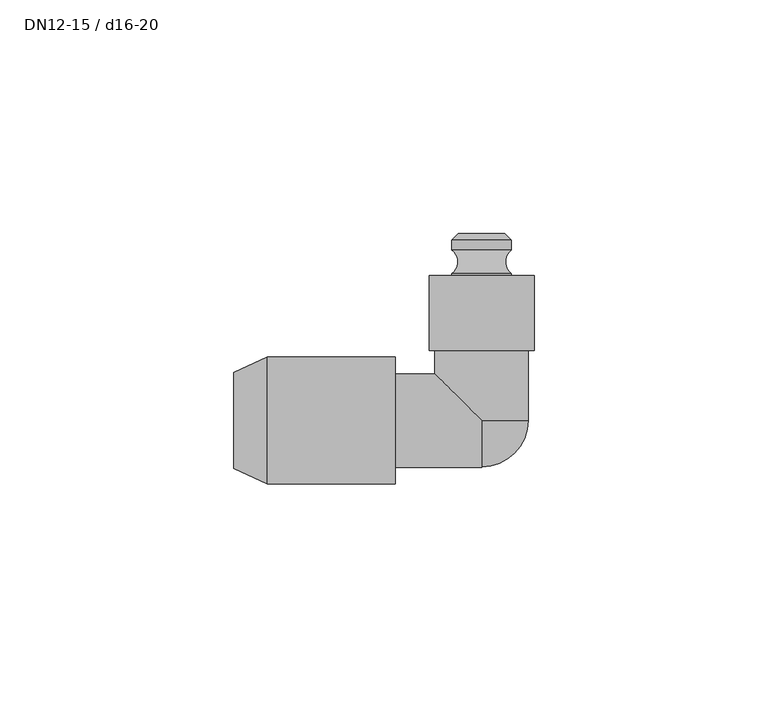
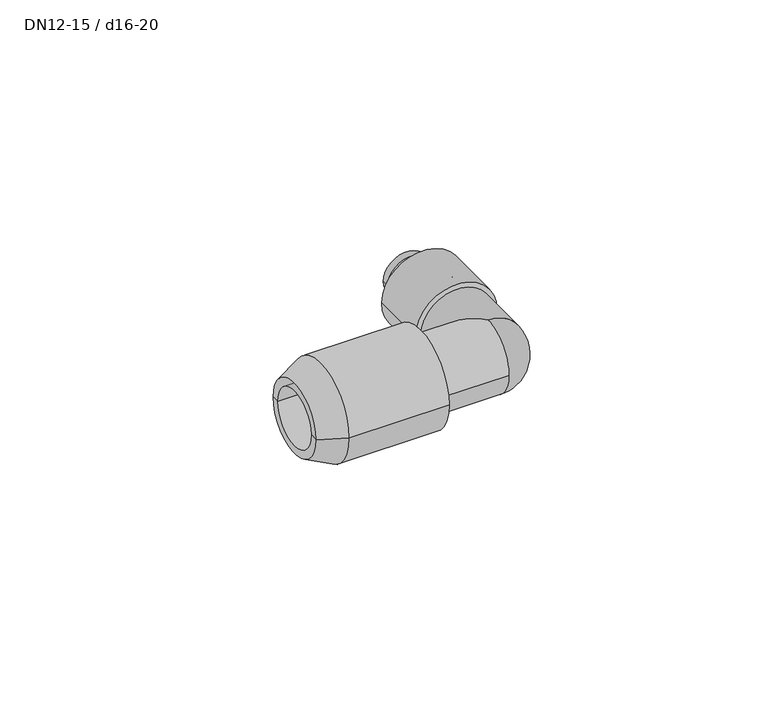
"""IFC4 building model written with IfcOpenShell, lengths in millimetres: pipe fitting geometry, NLRS_50_PIF_UN_PushFit overgangsknie 90° met MasterFix_geb : DN12-15 / d16-20."""

from ifc_helpers import new_model, si_unit, point, frame, origin, place, context, project, spatial, polyline, circle_curve, ellipse_curve, trimmed, source, transform, mapped, element, save
from ifc_brep_helpers import plane_surface, cylinder_surface, revolved_surface, advanced_brep


def dn12_15_d16_20_8953fad6(model_context):
    return source(origin(), model_context, "Body", "AdvancedBrep", [
        advanced_brep(
        [(-11.25, 31.0, 0.0), (11.25, 31.0, 0.0), (11.25, 15.0, 0.0), (-11.25, 15.0, 0.0), (-9.25, 31.0, 0.0), (9.25, 31.0, 0.0), (-9.25, 20.0, 0.0), (9.25, 20.0, 0.0), (0.0, 20.0, 0.0), (0.0, 15.0, 0.0)],
        [
            (0, 1, circle_curve(frame((0.0, 31.0, 0.0), z_axis=(0.0, -1.0, 0.0), x_axis=(1.0000000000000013, 0.0, 0.0)), 11.25)),
            (1, 2),
            (2, 3, circle_curve(frame((0.0, 15.0, 0.0), z_axis=(0.0, 1.0, 0.0), x_axis=(1.0000000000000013, 0.0, 0.0)), 11.25)),
            (3, 0),
            (1, 0, circle_curve(frame((0.0, 31.0, 0.0), z_axis=(0.0, -1.0, 0.0), x_axis=(1.0000000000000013, 0.0, 0.0)), 11.25)),
            (3, 2, circle_curve(frame((0.0, 15.0, 0.0), z_axis=(0.0, 1.0, 0.0), x_axis=(1.0000000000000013, 0.0, 0.0)), 11.25)),
            (4, 5, circle_curve(frame((0.0, 31.0, 0.0), z_axis=(0.0, -1.0, 0.0), x_axis=(1.0000000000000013, 0.0, 0.0)), 9.25)),
            (5, 1),
            (0, 4),
            (5, 4, circle_curve(frame((0.0, 31.0, 0.0), z_axis=(0.0, -1.0, 0.0), x_axis=(1.0000000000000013, 0.0, 0.0)), 9.25)),
            (6, 7, circle_curve(frame((0.0, 20.0, 0.0), z_axis=(0.0, -1.0, 0.0), x_axis=(1.0000000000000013, 0.0, 0.0)), 9.25)),
            (7, 5),
            (4, 6),
            (7, 6, circle_curve(frame((0.0, 20.0, 0.0), z_axis=(0.0, -1.0, 0.0), x_axis=(1.0000000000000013, 0.0, 0.0)), 9.25)),
            (8, 7),
            (6, 8),
            (2, 9),
            (9, 3),
        ],
        [
            cylinder_surface(frame((0.0, 46.0, 0.0), z_axis=(0.0, 1.0000000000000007, 0.0), x_axis=(1.0000000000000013, 0.0, 0.0)), 11.25),
            plane_surface(frame((0.0, 31.0, 0.0), z_axis=(0.0, 1.0, 0.0), x_axis=(1.0, 0.0, 0.0))),
            revolved_surface(polyline([(9.250000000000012, 30.99999999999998, 0.0), (9.250000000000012, 19.999999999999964, 0.0)]), (0.0, 46.0, 0.0), (0.0, 1.0000000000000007, 0.0)),
            plane_surface(frame((0.0, 20.0, 0.0), z_axis=(0.0, 1.0, 0.0), x_axis=(1.0, 0.0, 0.0))),
            plane_surface(frame((0.0, 15.0, 0.0), z_axis=(0.0, -1.0, 0.0), x_axis=(1.0, 0.0, 0.0))),
        ],
        [
            (0, [[1, 2, 3, 4]]),
            (0, [[5, -4, 6, -2]]),
            (1, [[7, 8, -1, 9]]),
            (1, [[10, -9, -5, -8]]),
            (2, [[11, 12, -7, 13]]),
            (2, [[14, -13, -10, -12]]),
            (3, [[15, -11, 16]]),
            (3, [[-16, -14, -15]]),
            (4, [[-3, 17, 18]]),
            (4, [[-6, -18, -17]]),
        ],
    ),
        advanced_brep(
        [(-6.35, 23.6195019, 0.0), (6.35, 23.6195019, 0.0), (6.35, 21.0, 0.0), (-6.35, 21.0, 0.0), (-6.35, 26.3804981, 0.0), (6.35, 26.3804981, 0.0), (-6.35, 31.5, 0.0), (6.35, 31.5, 0.0), (-6.35, 36.5, 0.0), (6.35, 36.5, 0.0), (-6.35, 38.6212479, 0.0), (6.35, 38.6212479, 0.0), (0.0, 40.0, 0.0), (4.9712479, 40.0, 0.0), (-4.9712479, 40.0, 0.0), (-9.0, 20.0, 0.0), (9.0, 20.0, 0.0), (0.0, 20.0, 0.0), (-9.0, 21.0, 0.0), (9.0, 21.0, 0.0)],
        [
            (0, 1, circle_curve(frame((0.0, 23.6195019, 0.0), z_axis=(0.0, -1.0, 0.0), x_axis=(1.0000000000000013, 0.0, 0.0)), 6.35)),
            (1, 2),
            (2, 3, circle_curve(frame((0.0, 21.0, 0.0), z_axis=(0.0, 1.0, 0.0), x_axis=(1.0000000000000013, 0.0, 0.0)), 6.35)),
            (3, 0),
            (1, 0, circle_curve(frame((0.0, 23.6195019, 0.0), z_axis=(0.0, -1.0, 0.0), x_axis=(1.0000000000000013, 0.0, 0.0)), 6.35)),
            (3, 2, circle_curve(frame((0.0, 21.0, 0.0), z_axis=(0.0, 1.0, 0.0), x_axis=(1.0000000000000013, 0.0, 0.0)), 6.35)),
            (4, 5, circle_curve(frame((0.0, 26.3804981, 0.0), z_axis=(0.0, -1.0, 0.0), x_axis=(1.0000000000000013, 0.0, 0.0)), 6.35)),
            (5, 1, circle_curve(frame((5.8811513, 25.0, 0.0), z_axis=(0.0, 0.0, -1.0000000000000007), x_axis=(0.0, -1.0000000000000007, 0.0)), 1.4579417)),
            (0, 4, circle_curve(frame((-5.8811513, 25.0, 0.0), z_axis=(0.0, 0.0, -1.0000000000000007), x_axis=(0.0, -1.0000000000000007, 0.0)), 1.4579417)),
            (5, 4, circle_curve(frame((0.0, 26.3804981, 0.0), z_axis=(0.0, -1.0, 0.0), x_axis=(1.0000000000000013, 0.0, 0.0)), 6.35)),
            (6, 7, circle_curve(frame((0.0, 31.5, 0.0), z_axis=(0.0, -1.0, 0.0), x_axis=(1.0000000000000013, 0.0, 0.0)), 6.35)),
            (7, 5),
            (4, 6),
            (7, 6, circle_curve(frame((0.0, 31.5, 0.0), z_axis=(0.0, -1.0, 0.0), x_axis=(1.0000000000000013, 0.0, 0.0)), 6.35)),
            (8, 9, circle_curve(frame((0.0, 36.5, 0.0), z_axis=(0.0, -1.0, 0.0), x_axis=(1.0000000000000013, 0.0, 0.0)), 6.35)),
            (9, 7, circle_curve(frame((8.2233153, 34.0, 0.0), z_axis=(0.0, 0.0, 1.0000000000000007), x_axis=(0.0, -1.0000000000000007, 0.0)), 3.1239894)),
            (6, 8, circle_curve(frame((-8.2233153, 34.0, 0.0), z_axis=(0.0, 0.0, 1.0000000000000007), x_axis=(0.0, -1.0000000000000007, 0.0)), 3.1239894)),
            (9, 8, circle_curve(frame((0.0, 36.5, 0.0), z_axis=(0.0, -1.0, 0.0), x_axis=(1.0000000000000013, 0.0, 0.0)), 6.35)),
            (10, 11, circle_curve(frame((0.0, 38.6212479, 0.0), z_axis=(0.0, -1.0, 0.0), x_axis=(1.0000000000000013, 0.0, 0.0)), 6.35)),
            (11, 9),
            (8, 10),
            (11, 10, circle_curve(frame((0.0, 38.6212479, 0.0), z_axis=(0.0, -1.0, 0.0), x_axis=(1.0000000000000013, 0.0, 0.0)), 6.35)),
            (12, 13),
            (13, 14, circle_curve(frame((0.0, 40.0, 0.0), z_axis=(0.0, 1.0, 0.0), x_axis=(1.0000000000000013, 0.0, 0.0)), 4.9712479)),
            (14, 12),
            (14, 13, circle_curve(frame((0.0, 40.0, 0.0), z_axis=(0.0, 1.0, 0.0), x_axis=(1.0000000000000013, 0.0, 0.0)), 4.9712479)),
            (15, 16, circle_curve(frame((0.0, 20.0, 0.0), z_axis=(0.0, -1.0, 0.0), x_axis=(1.0000000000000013, 0.0, 0.0)), 9.0)),
            (16, 17),
            (17, 15),
            (16, 15, circle_curve(frame((0.0, 20.0, 0.0), z_axis=(0.0, -1.0, 0.0), x_axis=(1.0000000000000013, 0.0, 0.0)), 9.0)),
            (18, 19, circle_curve(frame((0.0, 21.0, 0.0), z_axis=(0.0, -1.0, 0.0), x_axis=(1.0000000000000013, 0.0, 0.0)), 9.0)),
            (19, 16, circle_curve(frame((9.0, 20.5, 0.0), z_axis=(0.0, 0.0, -1.0000000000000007), x_axis=(0.0, -1.0000000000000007, 0.0)), 0.5)),
            (15, 18, circle_curve(frame((-9.0, 20.5, 0.0), z_axis=(0.0, 0.0, -1.0000000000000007), x_axis=(0.0, -1.0000000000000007, 0.0)), 0.5)),
            (19, 18, circle_curve(frame((0.0, 21.0, 0.0), z_axis=(0.0, -1.0, 0.0), x_axis=(1.0000000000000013, 0.0, 0.0)), 9.0)),
            (2, 19),
            (18, 3),
            (13, 11),
            (10, 14),
        ],
        [
            cylinder_surface(frame((0.0, 48.2935438, 0.0), z_axis=(0.0, 1.0000000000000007, 0.0), x_axis=(1.0000000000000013, 0.0, 0.0)), 6.35),
            revolved_surface(trimmed(ellipse_curve(frame((5.8811513, 25.0, 0.0), z_axis=(0.0, 0.0, 1.0000000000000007), x_axis=(0.0, -1.0000000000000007, 0.0)), 1.4579417, 1.4579417), [point((6.35, 23.6195019, 0.0))], [point((6.35, 26.3804981, 0.0))], True, "CARTESIAN"), (0.0, 48.2935438, 0.0), (0.0, 1.0000000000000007, 0.0)),
            revolved_surface(trimmed(ellipse_curve(frame((8.2233153, 34.0, 0.0), z_axis=(0.0, 0.0, -1.0000000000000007), x_axis=(0.0, -1.0000000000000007, 0.0)), 3.1239894, 3.1239894), [point((6.35, 31.5, 0.0))], [point((6.35, 36.5, 0.0))], True, "CARTESIAN"), (0.0, 48.2935438, 0.0), (0.0, 1.0000000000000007, 0.0)),
            plane_surface(frame((0.0, 40.0, 0.0), z_axis=(0.0, 1.0, 0.0), x_axis=(1.0, 0.0, 0.0))),
            plane_surface(frame((0.0, 20.0, 0.0), z_axis=(0.0, -1.0, 0.0), x_axis=(1.0, 0.0, 0.0))),
            revolved_surface(trimmed(ellipse_curve(frame((9.0, 20.5, 0.0), z_axis=(0.0, 0.0, 1.0000000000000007), x_axis=(0.0, -1.0000000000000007, 0.0)), 0.5, 0.5), [point((9.0, 20.0, 0.0))], [point((9.0, 21.0, 0.0))], True, "CARTESIAN"), (0.0, 48.2935438, 0.0), (0.0, 1.0000000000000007, 0.0)),
            plane_surface(frame((0.0, 21.0, 0.0), z_axis=(0.0, 1.0, 0.0), x_axis=(1.0, 0.0, 0.0))),
            revolved_surface(polyline([(6.35, 38.6212479, 0.0), (4.9712479, 40.0, 0.0)]), (0.0, 48.2935438, 0.0), (0.0, 1.0000000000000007, 0.0)),
        ],
        [
            (0, [[1, 2, 3, 4]]),
            (0, [[5, -4, 6, -2]]),
            (1, [[7, 8, -1, 9]]),
            (1, [[10, -9, -5, -8]]),
            (0, [[11, 12, -7, 13]]),
            (0, [[14, -13, -10, -12]]),
            (2, [[15, 16, -11, 17]]),
            (2, [[18, -17, -14, -16]]),
            (0, [[19, 20, -15, 21]]),
            (0, [[22, -21, -18, -20]]),
            (3, [[23, 24, 25]]),
            (3, [[-25, 26, -23]]),
            (4, [[27, 28, 29]]),
            (4, [[30, -29, -28]]),
            (5, [[31, 32, -27, 33]]),
            (5, [[34, -33, -30, -32]]),
            (6, [[-3, 35, -31, 36]]),
            (6, [[-6, -36, -34, -35]]),
            (7, [[-24, 37, -19, 38]]),
            (7, [[-26, -38, -22, -37]]),
        ],
    ),
        advanced_brep(
        [(-18.5, -13.6, 0.0), (-18.5, 13.6, 0.0), (-18.5, 0.0, 0.0), (-45.8159018, -13.6, 0.0), (-45.8159018, 13.6, 0.0), (-53.0, -10.25, 0.0), (-53.0, 10.25, 0.0), (-28.0, -8.0, 0.0), (-28.0, 8.0, 0.0), (-53.0, 8.0, 0.0), (-53.0, -8.0, 0.0), (-28.0, 0.0, 0.0)],
        [
            (0, 1, circle_curve(frame((-18.5, 0.0, 0.0), z_axis=(1.0, 0.0, 0.0), x_axis=(0.0, 1.0, 0.0)), 13.6)),
            (1, 2),
            (2, 0),
            (1, 0, circle_curve(frame((-18.5, 0.0, 0.0), z_axis=(1.0, 0.0, 0.0), x_axis=(0.0, 1.0, 0.0)), 13.6)),
            (3, 4, circle_curve(frame((-45.8159018, 0.0, 0.0), z_axis=(1.0, 0.0, 0.0), x_axis=(0.0, 1.0, 0.0)), 13.6)),
            (4, 1),
            (0, 3),
            (4, 3, circle_curve(frame((-45.8159018, 0.0, 0.0), z_axis=(1.0, 0.0, 0.0), x_axis=(0.0, 1.0, 0.0)), 13.6)),
            (5, 6, circle_curve(frame((-53.0, 0.0, 0.0), z_axis=(1.0, 0.0, 0.0), x_axis=(0.0, 1.0, 0.0)), 10.25)),
            (6, 4),
            (3, 5),
            (6, 5, circle_curve(frame((-53.0, 0.0, 0.0), z_axis=(1.0, 0.0, 0.0), x_axis=(0.0, 1.0, 0.0)), 10.25)),
            (7, 8, circle_curve(frame((-28.0, 0.0, 0.0), z_axis=(1.0, 0.0, 0.0), x_axis=(0.0, 1.0, 0.0)), 8.0)),
            (8, 9),
            (9, 10, circle_curve(frame((-53.0, 0.0, 0.0), z_axis=(-1.0, 0.0, 0.0), x_axis=(0.0, 1.0, 0.0)), 8.0)),
            (10, 7),
            (8, 7, circle_curve(frame((-28.0, 0.0, 0.0), z_axis=(1.0, 0.0, 0.0), x_axis=(0.0, 1.0, 0.0)), 8.0)),
            (10, 9, circle_curve(frame((-53.0, 0.0, 0.0), z_axis=(-1.0, 0.0, 0.0), x_axis=(0.0, 1.0, 0.0)), 8.0)),
            (11, 8),
            (7, 11),
            (9, 6),
            (5, 10),
        ],
        [
            plane_surface(frame((-18.5, 0.0, 0.0), z_axis=(1.0, 0.0, 0.0), x_axis=(0.0, 1.0, 0.0))),
            cylinder_surface(frame((-63.0, 0.0, 0.0), z_axis=(-1.0, 0.0, 0.0), x_axis=(0.0, 1.0, 0.0)), 13.6),
            revolved_surface(polyline([(-45.8159018, 13.6, 0.0), (-53.0, 10.25, 0.0)]), (-63.0, 0.0, 0.0), (-1.0, 0.0, 0.0)),
            revolved_surface(polyline([(-53.0, 8.0, 0.0), (-28.0, 8.0, 0.0)]), (-63.0, 0.0, 0.0), (-1.0, 0.0, 0.0)),
            plane_surface(frame((-28.0, 0.0, 0.0), z_axis=(-1.0, 0.0, 0.0), x_axis=(0.0, 1.0, 0.0))),
            plane_surface(frame((-53.0, 0.0, 0.0), z_axis=(-1.0, 0.0, 0.0), x_axis=(0.0, 1.0, 0.0))),
        ],
        [
            (0, [[1, 2, 3]]),
            (0, [[4, -3, -2]]),
            (1, [[5, 6, -1, 7]]),
            (1, [[8, -7, -4, -6]]),
            (2, [[9, 10, -5, 11]]),
            (2, [[12, -11, -8, -10]]),
            (3, [[13, 14, 15, 16]]),
            (3, [[17, -16, 18, -14]]),
            (4, [[19, -13, 20]]),
            (4, [[-20, -17, -19]]),
            (5, [[-15, 21, -9, 22]]),
            (5, [[-18, -22, -12, -21]]),
        ],
    ),
        advanced_brep(
        [(-18.5, -10.0, 0.0), (-18.5, 10.0, 0.0), (0.0, -10.0, 0.0), (0.0, 0.0, 10.0), (-10.0, 10.0, 0.0), (0.0, 0.0, -10.0), (-10.0, 15.0, 0.0), (10.0, 15.0, 0.0), (10.0, 0.0, 0.0)],
        [
            (0, 1, circle_curve(frame((-18.5, 0.0, 0.0), z_axis=(-1.0, 0.0, 0.0), x_axis=(0.0, 1.0, 0.0)), 10.0)),
            (1, 0, circle_curve(frame((-18.5, 0.0, 0.0), z_axis=(-1.0, 0.0, 0.0), x_axis=(0.0, 1.0, 0.0)), 10.0)),
            (0, 2),
            (2, 3, circle_curve(frame((0.0, 0.0, 0.0), z_axis=(-1.0, 0.0, 0.0), x_axis=(0.0, 1.0, 0.0)), 10.0)),
            (3, 4, ellipse_curve(frame((0.0, 0.0, 0.0), z_axis=(-0.7071067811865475, -0.7071067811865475, 0.0), x_axis=(-0.7071067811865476, 0.7071067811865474, 0.0)), 14.1421356, 10.0)),
            (4, 1),
            (4, 5, ellipse_curve(frame((0.0, 0.0, 0.0), z_axis=(-0.7071067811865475, -0.7071067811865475, 0.0), x_axis=(-0.7071067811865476, 0.7071067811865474, 0.0)), 14.1421356, 10.0)),
            (5, 2, circle_curve(frame((0.0, 0.0, 0.0), z_axis=(-1.0, 0.0, 0.0), x_axis=(0.0, 1.0, 0.0)), 10.0)),
            (6, 7, circle_curve(frame((0.0, 15.0, 0.0), z_axis=(0.0, 1.0, 0.0), x_axis=(1.0, 0.0, 0.0)), 10.0)),
            (7, 6, circle_curve(frame((0.0, 15.0, 0.0), z_axis=(0.0, 1.0, 0.0), x_axis=(1.0, 0.0, 0.0)), 10.0)),
            (6, 4),
            (3, 8, circle_curve(frame((0.0, 0.0, 0.0), z_axis=(0.0, 1.0, 0.0), x_axis=(1.0, 0.0, 0.0)), 10.0)),
            (8, 7),
            (8, 5, circle_curve(frame((0.0, 0.0, 0.0), z_axis=(0.0, 1.0, 0.0), x_axis=(1.0, 0.0, 0.0)), 10.0)),
        ],
        [
            plane_surface(frame((-18.5, 0.0, 0.0), z_axis=(-1.0, 0.0, 0.0), x_axis=(0.0, 0.0, 1.0))),
            cylinder_surface(frame((-18.5, 0.0, 0.0), z_axis=(-1.0, 0.0, 0.0), x_axis=(0.0, 1.0, 0.0)), 10.0),
            plane_surface(frame((0.0, 15.0, 0.0), z_axis=(0.0, 1.0, 0.0), x_axis=(0.0, 0.0, 1.0))),
            cylinder_surface(frame((0.0, 15.0, 0.0), z_axis=(0.0, 1.0, 0.0), x_axis=(1.0, 0.0, 0.0)), 10.0),
            revolved_surface(trimmed(ellipse_curve(frame((0.0, 0.0, 0.0), z_axis=(0.0, -1.0, 0.0), x_axis=(1.0, 0.0, 0.0)), 10.0, 10.0), [point((0.0, 0.0, -10.0))], [point((0.0, 0.0, 10.0))], True, "CARTESIAN"), (0.0, 0.0, 31.7080973), (0.0, 0.0, 1.0)),
        ],
        [
            (0, [[1, 2]]),
            (1, [[-1, 3, 4, 5, 6]]),
            (1, [[-2, -6, 7, 8, -3]]),
            (2, [[9, 10]]),
            (3, [[-9, 11, -5, 12, 13]]),
            (3, [[-10, -13, 14, -7, -11]]),
            (4, [[-4, -8, -14, -12]]),
        ],
    ),
    ])


if __name__ == "__main__":
    model = new_model("IFC4")
    model_context = context("Model", 3, world=origin())
    ifc_project = project(units=[si_unit("LENGTHUNIT", "METRE", prefix="MILLI")], contexts=[model_context])
    site = spatial("IfcSite", under=ifc_project)
    building = spatial("IfcBuilding", under=site)
    placement = place(None, origin())
    dn12_15_d16_20_shape = dn12_15_d16_20_8953fad6(model_context)
    element("IfcPipeFitting", 1, ObjectType="NLRS_50_PIF_UN_PushFit overgangsknie 90° met MasterFix_geb : DN12-15 / d16-20", at=placement, inside=building, context=model_context, shape_type="MappedRepresentation", body=[
        mapped(dn12_15_d16_20_shape, transform((0.0, 0.0, 0.0), x_axis=(1.0, 0.0, 0.0), y_axis=(0.0, 1.0, 0.0), z_axis=(0.0, 0.0, 1.0))),
    ])
    save(model, "model.ifc")
